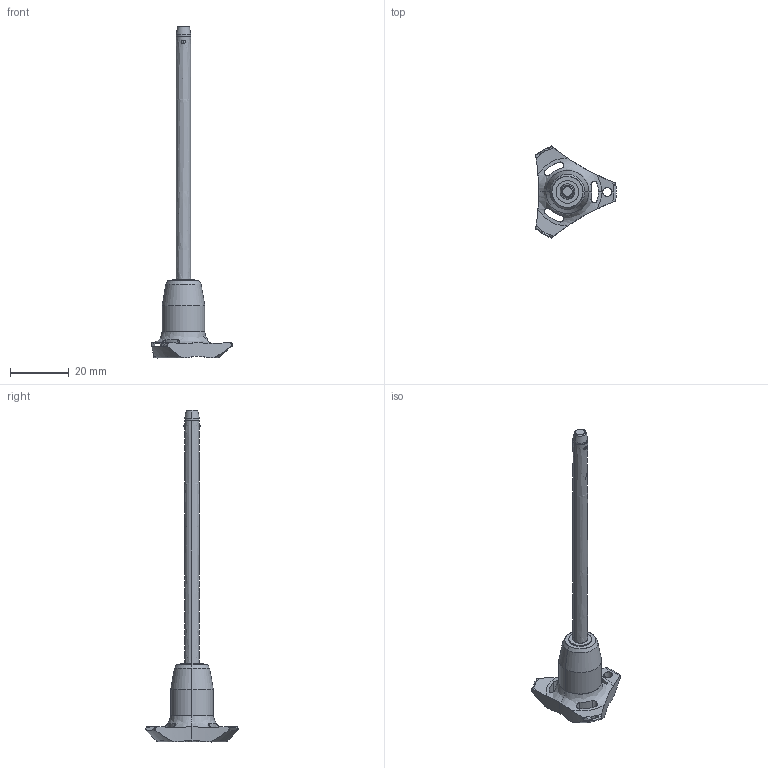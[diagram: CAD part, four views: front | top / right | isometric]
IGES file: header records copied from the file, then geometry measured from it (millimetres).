
Start section: SolidWorks IGES file using analytic representation for surfaces
Global section: file name: C:\Users\ianosborn\Desktop\QR1716_v2\QR1716_v2_20251114_IGES\QR1716.M05-080-T.igs; native system: SolidWorks 2019; preprocessor: SolidWorks 2019; author: IanOsborn; date: 251113.102626; units: millimetre
Bounding box: 27.4 x 31.31 x 112.7 mm (x, y, z)
Surface area: 3765.1 mm2 (no closed solid volume)
Topology: 0 solids, 0 shells, 69 faces, 1299 edges, 1280 vertices
Faces by surface type: revolution 52, bspline 17
